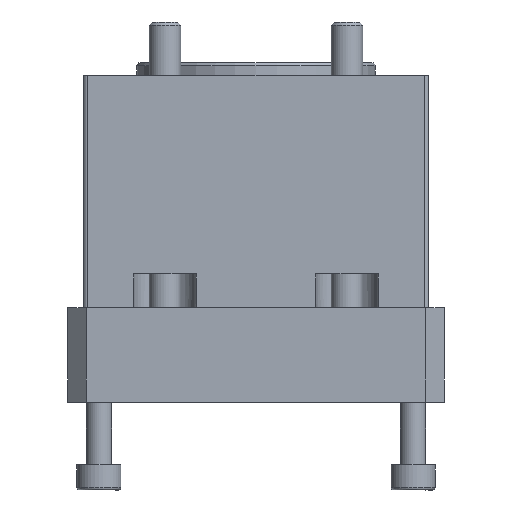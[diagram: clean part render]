
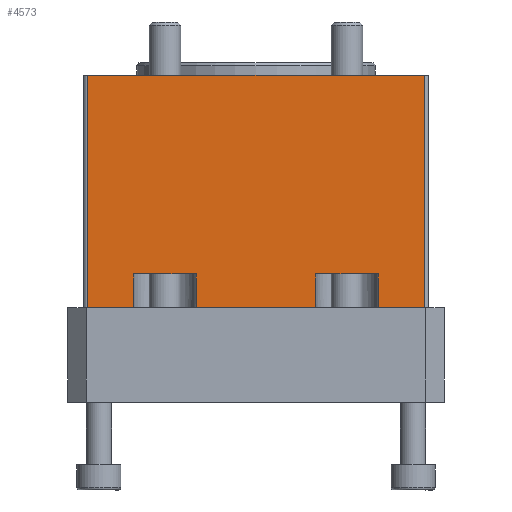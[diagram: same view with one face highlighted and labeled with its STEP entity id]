
A CAD part, front view. The second image highlights one B-rep face of the part: STEP entity #4573.
In plain terms, the highlighted planar face has unit normal (0, -1, 0) as drawn and (0, 1, 0) by its records, which use the part's own axes.
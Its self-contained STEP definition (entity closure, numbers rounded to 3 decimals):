
#716=FACE_OUTER_BOUND('',#1020,.T.);
#1020=EDGE_LOOP('',(#3324,#3325,#3326,#3327,#3328,#3329,#3330,#3331,#3332,
#3333,#3334,#3335));
#1352=LINE('',#6875,#1678);
#1354=LINE('',#6881,#1680);
#1360=LINE('',#6893,#1686);
#1362=LINE('',#6899,#1688);
#1372=LINE('',#6957,#1698);
#1375=LINE('',#6985,#1701);
#1376=LINE('',#6994,#1702);
#1379=LINE('',#7007,#1705);
#1387=LINE('',#7076,#1713);
#1391=LINE('',#7136,#1717);
#1392=LINE('',#7140,#1718);
#1393=LINE('',#7141,#1719);
#1678=VECTOR('',#5397,5.4);
#1680=VECTOR('',#5401,5.4);
#1686=VECTOR('',#5409,5.4);
#1688=VECTOR('',#5413,5.4);
#1698=VECTOR('',#5453,7.25);
#1701=VECTOR('',#5474,19.);
#1702=VECTOR('',#5485,7.25);
#1705=VECTOR('',#5498,10.);
#1713=VECTOR('',#5582,10.);
#1717=VECTOR('',#5660,37.);
#1718=VECTOR('',#5665,37.);
#1719=VECTOR('',#5666,53.5);
#2001=VERTEX_POINT('',#6868);
#2004=VERTEX_POINT('',#6873);
#2006=VERTEX_POINT('',#6878);
#2007=VERTEX_POINT('',#6880);
#2009=VERTEX_POINT('',#6886);
#2012=VERTEX_POINT('',#6891);
#2014=VERTEX_POINT('',#6896);
#2015=VERTEX_POINT('',#6898);
#2032=VERTEX_POINT('',#6955);
#2043=VERTEX_POINT('',#6993);
#2082=VERTEX_POINT('',#7135);
#2083=VERTEX_POINT('',#7139);
#2465=EDGE_CURVE('',#2001,#2004,#1352,.T.);
#2467=EDGE_CURVE('',#2007,#2006,#1354,.T.);
#2473=EDGE_CURVE('',#2009,#2012,#1360,.T.);
#2475=EDGE_CURVE('',#2015,#2014,#1362,.T.);
#2500=EDGE_CURVE('',#2004,#2032,#1372,.T.);
#2512=EDGE_CURVE('',#2012,#2007,#1375,.T.);
#2517=EDGE_CURVE('',#2043,#2015,#1376,.T.);
#2524=EDGE_CURVE('',#2014,#2009,#1379,.T.);
#2553=EDGE_CURVE('',#2006,#2001,#1387,.T.);
#2573=EDGE_CURVE('',#2082,#2043,#1391,.T.);
#2575=EDGE_CURVE('',#2083,#2032,#1392,.T.);
#2576=EDGE_CURVE('',#2083,#2082,#1393,.T.);
#3324=ORIENTED_EDGE('',*,*,#2575,.F.);
#3325=ORIENTED_EDGE('',*,*,#2576,.T.);
#3326=ORIENTED_EDGE('',*,*,#2573,.T.);
#3327=ORIENTED_EDGE('',*,*,#2517,.T.);
#3328=ORIENTED_EDGE('',*,*,#2475,.T.);
#3329=ORIENTED_EDGE('',*,*,#2524,.T.);
#3330=ORIENTED_EDGE('',*,*,#2473,.T.);
#3331=ORIENTED_EDGE('',*,*,#2512,.T.);
#3332=ORIENTED_EDGE('',*,*,#2467,.T.);
#3333=ORIENTED_EDGE('',*,*,#2553,.T.);
#3334=ORIENTED_EDGE('',*,*,#2465,.T.);
#3335=ORIENTED_EDGE('',*,*,#2500,.T.);
#4401=PLANE('',#4916);
#4573=ADVANCED_FACE('',(#716),#4401,.T.);
#4916=AXIS2_PLACEMENT_3D('',#7138,#5663,#5664);
#5397=DIRECTION('',(0.,0.,1.));
#5401=DIRECTION('',(0.,0.,-1.));
#5409=DIRECTION('',(0.,0.,1.));
#5413=DIRECTION('',(0.,0.,-1.));
#5453=DIRECTION('',(1.,0.,0.));
#5474=DIRECTION('',(1.,0.,0.));
#5485=DIRECTION('',(1.,0.,0.));
#5498=DIRECTION('',(1.,0.,0.));
#5582=DIRECTION('',(1.,0.,0.));
#5660=DIRECTION('',(0.,0.,1.));
#5663=DIRECTION('center_axis',(0.,1.,0.));
#5664=DIRECTION('ref_axis',(0.,0.,1.));
#5665=DIRECTION('',(0.,0.,1.));
#5666=DIRECTION('',(-1.,0.,0.));
#6868=CARTESIAN_POINT('',(19.5,22.,31.6));
#6873=CARTESIAN_POINT('',(19.5,22.,37.));
#6875=CARTESIAN_POINT('',(19.5,22.,18.5));
#6878=CARTESIAN_POINT('',(9.5,22.,31.6));
#6880=CARTESIAN_POINT('',(9.5,22.,37.));
#6881=CARTESIAN_POINT('',(9.5,22.,18.5));
#6886=CARTESIAN_POINT('',(-9.5,22.,31.6));
#6891=CARTESIAN_POINT('',(-9.5,22.,37.));
#6893=CARTESIAN_POINT('',(-9.5,22.,18.5));
#6896=CARTESIAN_POINT('',(-19.5,22.,31.6));
#6898=CARTESIAN_POINT('',(-19.5,22.,37.));
#6899=CARTESIAN_POINT('',(-19.5,22.,18.5));
#6955=CARTESIAN_POINT('',(26.75,22.,37.));
#6957=CARTESIAN_POINT('',(26.75,22.,37.));
#6985=CARTESIAN_POINT('',(26.75,22.,37.));
#6993=CARTESIAN_POINT('',(-26.75,22.,37.));
#6994=CARTESIAN_POINT('',(26.75,22.,37.));
#7007=CARTESIAN_POINT('',(-13.375,22.,31.6));
#7076=CARTESIAN_POINT('',(-13.375,22.,31.6));
#7135=CARTESIAN_POINT('',(-26.75,22.,0.));
#7136=CARTESIAN_POINT('',(-26.75,22.,0.));
#7138=CARTESIAN_POINT('Origin',(-26.75,22.,0.));
#7139=CARTESIAN_POINT('',(26.75,22.,0.));
#7140=CARTESIAN_POINT('',(26.75,22.,0.));
#7141=CARTESIAN_POINT('',(26.75,22.,0.));
